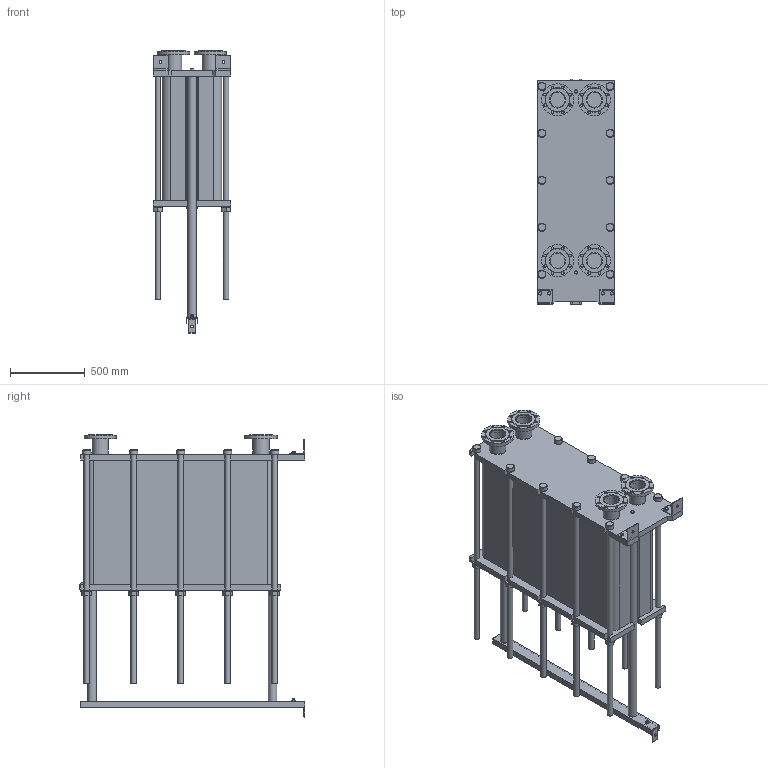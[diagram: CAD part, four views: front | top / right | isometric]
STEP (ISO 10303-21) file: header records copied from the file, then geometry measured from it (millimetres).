
FILE_DESCRIPTION(/* description */ (''),/* implementation_level */ '2;1');
FILE_NAME(/* name */ 'C:\Users\zhuro\Desktop\ENCO\TO\ЭН-04\ЭН-0,5-04-241-1.stp',/* time_stamp */ '2022-06-06T11:06:17+03:00',/* author */ ('zhuro'),/* organization */ (''),/* preprocessor_version */ 'ST-DEVELOPER v18.1',/* originating_system */ 'Autodesk Inventor 2022',/* authorisation */ '');
FILE_SCHEMA (('AUTOMOTIVE_DESIGN { 1 0 10303 214 3 1 1 }'));
Length unit declared in the file: millimetre
Products named in the file (1): ЭН-0,5-04-241-1
Bounding box: 520 x 1510 x 1890.5 mm (x, y, z)
Volume: 494318286.3 mm3; surface area: 11455865.3 mm2
Topology: 45 solids, 45 shells, 668 faces, 1611 edges, 1048 vertices
Faces by surface type: plane 457, cylinder 166, cone 39, torus 6
Full cylindrical faces by diameter (mm): 8 x4, 10 x2, 16 x8, 18 x35, 36 x25, 40 x2, 42 x1, 45 x4, 54 x10, 57 x2, 60 x10, 68 x2, 100 x4, 110 x8, 215 x4
Entity records: 23607 total; most frequent: CARTESIAN_POINT 7348, DIRECTION 3371, ORIENTED_EDGE 3142, EDGE_CURVE 1571, AXIS2_PLACEMENT_3D 1199, VERTEX_POINT 1044, LINE 973, VECTOR 973
